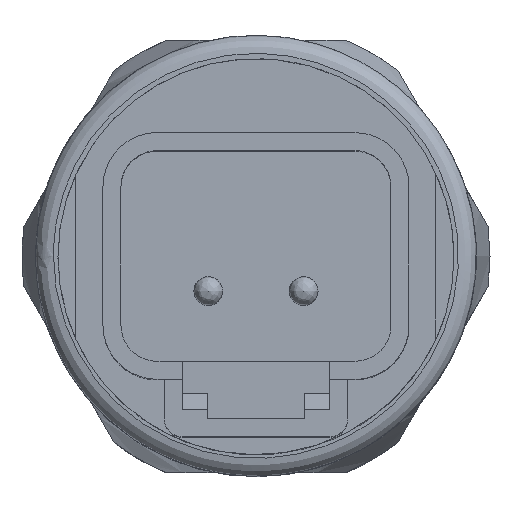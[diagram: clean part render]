
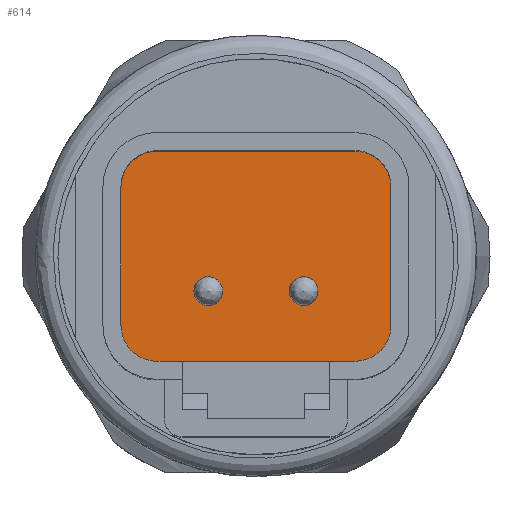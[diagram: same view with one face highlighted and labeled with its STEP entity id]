
A CAD part, top view. The second image highlights one B-rep face of the part: STEP entity #614.
In plain terms, the highlighted free-form (B-spline) face has degree [1, 1] with [2, 2] control points.
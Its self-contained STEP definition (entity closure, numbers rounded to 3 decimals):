
#139=CARTESIAN_POINT('V125',(3.45,-1.987,
   42.0));
#140=VERTEX_POINT('V125',#139);
#146=CARTESIAN_POINT('E182',(3.45,-1.987,
   42.0));
#147=CARTESIAN_POINT('E182',(3.45,-3.373,
   42.0));
#148=CARTESIAN_POINT('E182',(2.25,-2.68,
   42.0));
#149=CARTESIAN_POINT('E182',(1.05,-1.987,
   42.0));
#150=CARTESIAN_POINT('E182',(2.25,-1.295,
   42.0));
#151=CARTESIAN_POINT('E182',(3.45,-0.602,
   42.0));
#152=CARTESIAN_POINT('E182',(3.45,-1.987,
   42.0));
#160=(BOUNDED_CURVE()B_SPLINE_CURVE(2,(#146,#147,#148,#149,#150,
   #151,#152),.CIRCULAR_ARC.,.T.,.U.)B_SPLINE_CURVE_WITH_KNOTS((3,
   2,2,3),(0.0,0.42,0.84,
   1.26),.UNSPECIFIED.)CURVE()
   GEOMETRIC_REPRESENTATION_ITEM()RATIONAL_B_SPLINE_CURVE((1.0,
   0.5,1.0,0.5,1.0,0.5,1.0)
   )REPRESENTATION_ITEM('E182'));
#161=EDGE_CURVE('E182',#140,#140,#160,.T.);
#257=CARTESIAN_POINT('V126',(-1.85,-1.987,
   42.0));
#258=VERTEX_POINT('V126',#257);
#264=CARTESIAN_POINT('E184',(-1.85,-1.987,
   42.0));
#265=CARTESIAN_POINT('E184',(-1.85,-3.373,
   42.0));
#266=CARTESIAN_POINT('E184',(-3.05,-2.68,
   42.0));
#267=CARTESIAN_POINT('E184',(-4.25,-1.987,
   42.0));
#268=CARTESIAN_POINT('E184',(-3.05,-1.295,
   42.0));
#269=CARTESIAN_POINT('E184',(-1.85,-0.602,
   42.0));
#270=CARTESIAN_POINT('E184',(-1.85,-1.987,
   42.0));
#278=(BOUNDED_CURVE()B_SPLINE_CURVE(2,(#264,#265,#266,#267,#268,
   #269,#270),.CIRCULAR_ARC.,.T.,.U.)B_SPLINE_CURVE_WITH_KNOTS((3,
   2,2,3),(0.0,0.42,0.84,
   1.26),.UNSPECIFIED.)CURVE()
   GEOMETRIC_REPRESENTATION_ITEM()RATIONAL_B_SPLINE_CURVE((1.0,
   0.5,1.0,0.5,1.0,0.5,1.0)
   )REPRESENTATION_ITEM('E184'));
#279=EDGE_CURVE('E184',#258,#258,#278,.T.);
#299=CARTESIAN_POINT('V96',(-7.5,-3.907,
   42.0));
#300=VERTEX_POINT('V96',#299);
#301=CARTESIAN_POINT('V97',(-5.5,-5.907,
   42.0));
#302=VERTEX_POINT('V97',#301);
#303=CARTESIAN_POINT('E128',(-7.5,-3.907,
   42.0));
#304=CARTESIAN_POINT('E128',(-7.5,-5.907,
   42.0));
#305=CARTESIAN_POINT('E128',(-5.5,-5.907,
   42.0));
#313=(BOUNDED_CURVE()B_SPLINE_CURVE(2,(#303,#304,#305),
   .CIRCULAR_ARC.,.F.,.U.)CURVE()GEOMETRIC_REPRESENTATION_ITEM()
   QUASI_UNIFORM_CURVE()RATIONAL_B_SPLINE_CURVE((0.804,
   0.634,1.0))REPRESENTATION_ITEM('E128'));
#314=EDGE_CURVE('E128',#300,#302,#313,.T.);
#351=CARTESIAN_POINT('V100',(-7.5,3.793,
   42.0));
#352=VERTEX_POINT('V100',#351);
#353=CARTESIAN_POINT('E132',(-7.5,3.793,
   42.0));
#354=CARTESIAN_POINT('E132',(-7.5,-3.907,
   42.0));
#355=QUASI_UNIFORM_CURVE('E132',1,(#353,#354),.POLYLINE_FORM.,.F.,
   .U.);
#356=EDGE_CURVE('E132',#352,#300,#355,.T.);
#388=CARTESIAN_POINT('V102',(-5.5,5.793,
   42.0));
#389=VERTEX_POINT('V102',#388);
#390=CARTESIAN_POINT('E135',(-5.5,5.793,
   42.0));
#391=CARTESIAN_POINT('E135',(-7.5,5.793,
   42.0));
#392=CARTESIAN_POINT('E135',(-7.5,3.793,
   42.0));
#400=(BOUNDED_CURVE()B_SPLINE_CURVE(2,(#390,#391,#392),
   .CIRCULAR_ARC.,.F.,.U.)CURVE()GEOMETRIC_REPRESENTATION_ITEM()
   QUASI_UNIFORM_CURVE()RATIONAL_B_SPLINE_CURVE((0.804,
   0.634,1.0))REPRESENTATION_ITEM('E135'));
#401=EDGE_CURVE('E135',#389,#352,#400,.T.);
#432=CARTESIAN_POINT('V89',(5.5,5.793,42.0)
   );
#433=VERTEX_POINT('V89',#432);
#434=CARTESIAN_POINT('E138',(5.5,5.793,
   42.0));
#435=CARTESIAN_POINT('E138',(-5.5,5.793,
   42.0));
#436=QUASI_UNIFORM_CURVE('E138',1,(#434,#435),.POLYLINE_FORM.,.F.,
   .U.);
#437=EDGE_CURVE('E138',#433,#389,#436,.T.);
#469=CARTESIAN_POINT('V88',(7.5,3.793,42.0)
   );
#470=VERTEX_POINT('V88',#469);
#471=CARTESIAN_POINT('E118',(7.5,3.793,
   42.0));
#472=CARTESIAN_POINT('E118',(7.5,5.793,
   42.0));
#473=CARTESIAN_POINT('E118',(5.5,5.793,
   42.0));
#481=(BOUNDED_CURVE()B_SPLINE_CURVE(2,(#471,#472,#473),
   .CIRCULAR_ARC.,.F.,.U.)CURVE()GEOMETRIC_REPRESENTATION_ITEM()
   QUASI_UNIFORM_CURVE()RATIONAL_B_SPLINE_CURVE((0.804,
   0.634,1.0))REPRESENTATION_ITEM('E118'));
#482=EDGE_CURVE('E118',#470,#433,#481,.T.);
#513=CARTESIAN_POINT('V92',(7.5,-3.907,
   42.0));
#514=VERTEX_POINT('V92',#513);
#515=CARTESIAN_POINT('E122',(7.5,-3.907,
   42.0));
#516=CARTESIAN_POINT('E122',(7.5,3.793,
   42.0));
#517=QUASI_UNIFORM_CURVE('E122',1,(#515,#516),.POLYLINE_FORM.,.F.,
   .U.);
#518=EDGE_CURVE('E122',#514,#470,#517,.T.);
#550=CARTESIAN_POINT('V94',(5.5,-5.907,
   42.0));
#551=VERTEX_POINT('V94',#550);
#552=CARTESIAN_POINT('E125',(5.5,-5.907,
   42.0));
#553=CARTESIAN_POINT('E125',(7.5,-5.907,
   42.0));
#554=CARTESIAN_POINT('E125',(7.5,-3.907,
   42.0));
#562=(BOUNDED_CURVE()B_SPLINE_CURVE(2,(#552,#553,#554),
   .CIRCULAR_ARC.,.F.,.U.)CURVE()GEOMETRIC_REPRESENTATION_ITEM()
   QUASI_UNIFORM_CURVE()RATIONAL_B_SPLINE_CURVE((0.804,
   0.634,1.0))REPRESENTATION_ITEM('E125'));
#563=EDGE_CURVE('E125',#551,#514,#562,.T.);
#589=CARTESIAN_POINT('F63',(-8.36,-6.602,
   42.0));
#590=CARTESIAN_POINT('F63',(8.36,-6.602,
   42.0));
#591=CARTESIAN_POINT('F63',(-8.36,6.488,
   42.0));
#592=CARTESIAN_POINT('F63',(8.36,6.488,42.0)
   );
#593=QUASI_UNIFORM_SURFACE('F63',1,1,((#589,#591),(#590,#592)),
   .PLANE_SURF.,.F.,.F.,.U.);
#594=CARTESIAN_POINT('E140',(-5.5,-5.907,
   42.0));
#595=CARTESIAN_POINT('E140',(5.5,-5.907,
   42.0));
#596=QUASI_UNIFORM_CURVE('E140',1,(#594,#595),.POLYLINE_FORM.,.F.,
   .U.);
#597=EDGE_CURVE('E140',#302,#551,#596,.T.);
#598=ORIENTED_EDGE('E140',*,*,#597,.T.);
#599=ORIENTED_EDGE('E125',*,*,#563,.T.);
#600=ORIENTED_EDGE('E122',*,*,#518,.T.);
#601=ORIENTED_EDGE('E118',*,*,#482,.T.);
#602=ORIENTED_EDGE('E138',*,*,#437,.T.);
#603=ORIENTED_EDGE('E135',*,*,#401,.T.);
#604=ORIENTED_EDGE('E132',*,*,#356,.T.);
#605=ORIENTED_EDGE('E128',*,*,#314,.T.);
#606=EDGE_LOOP('F63',(#598,#599,#600,#601,#602,#603,#604,#605));
#607=FACE_OUTER_BOUND('F63',#606,.T.);
#608=ORIENTED_EDGE('E184',*,*,#279,.T.);
#609=EDGE_LOOP('F63',(#608));
#610=FACE_BOUND('F63',#609,.T.);
#611=ORIENTED_EDGE('E182',*,*,#161,.T.);
#612=EDGE_LOOP('F63',(#611));
#613=FACE_BOUND('F63',#612,.T.);
#614=ADVANCED_FACE('F63',(#607,#610,#613),#593,.T.);
